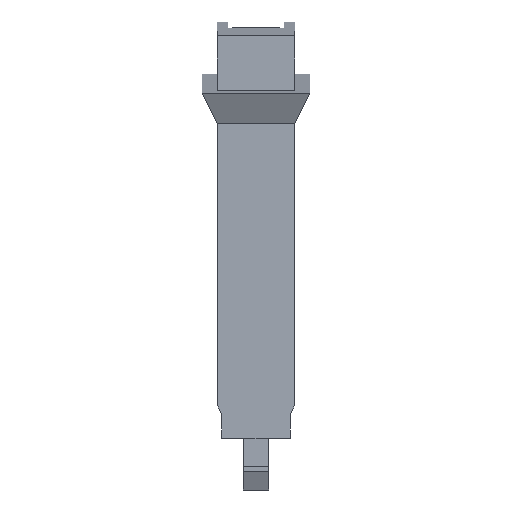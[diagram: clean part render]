
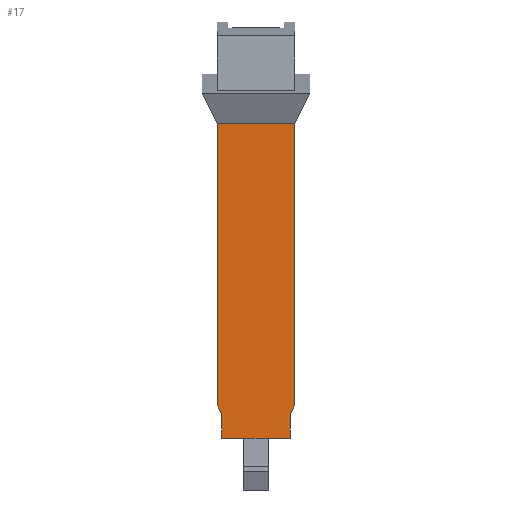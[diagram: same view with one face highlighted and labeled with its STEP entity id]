
A CAD part, left-side view. The second image highlights one B-rep face of the part: STEP entity #17.
In plain terms, the highlighted planar face has unit normal (-1, 0, 0).
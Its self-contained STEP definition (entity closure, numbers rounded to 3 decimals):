
#17 = ADVANCED_FACE('',(#18),#32,.F.);
#18 = FACE_BOUND('',#19,.F.);
#19 = EDGE_LOOP('',(#20,#55,#81,#107,#135,#161,#187,#215));
#20 = ORIENTED_EDGE('',*,*,#21,.F.);
#21 = EDGE_CURVE('',#22,#24,#26,.T.);
#22 = VERTEX_POINT('',#23);
#23 = CARTESIAN_POINT('',(-3.6,-3.6,-32.437));
#24 = VERTEX_POINT('',#25);
#25 = CARTESIAN_POINT('',(-3.6,-3.6,-6.321));
#26 = SURFACE_CURVE('',#27,(#31,#43),.PCURVE_S1.);
#27 = LINE('',#28,#29);
#28 = CARTESIAN_POINT('',(-3.6,-3.6,-35.537));
#29 = VECTOR('',#30,1.);
#30 = DIRECTION('',(0.,0.,1.));
#31 = PCURVE('',#32,#37);
#32 = PLANE('',#33);
#33 = AXIS2_PLACEMENT_3D('',#34,#35,#36);
#34 = CARTESIAN_POINT('',(-3.6,-3.6,-35.537));
#35 = DIRECTION('',(1.,0.,-0.));
#36 = DIRECTION('',(0.,0.,1.));
#37 = DEFINITIONAL_REPRESENTATION('',(#38),#42);
#38 = LINE('',#39,#40);
#39 = CARTESIAN_POINT('',(0.,0.));
#40 = VECTOR('',#41,1.);
#41 = DIRECTION('',(1.,0.));
#42 = ( GEOMETRIC_REPRESENTATION_CONTEXT(2) 
PARAMETRIC_REPRESENTATION_CONTEXT() REPRESENTATION_CONTEXT('2D SPACE',''
  ) );
#43 = PCURVE('',#44,#49);
#44 = PLANE('',#45);
#45 = AXIS2_PLACEMENT_3D('',#46,#47,#48);
#46 = CARTESIAN_POINT('',(-3.6,-3.6,-35.537));
#47 = DIRECTION('',(-0.,1.,0.));
#48 = DIRECTION('',(0.,0.,1.));
#49 = DEFINITIONAL_REPRESENTATION('',(#50),#54);
#50 = LINE('',#51,#52);
#51 = CARTESIAN_POINT('',(0.,0.));
#52 = VECTOR('',#53,1.);
#53 = DIRECTION('',(1.,0.));
#54 = ( GEOMETRIC_REPRESENTATION_CONTEXT(2) 
PARAMETRIC_REPRESENTATION_CONTEXT() REPRESENTATION_CONTEXT('2D SPACE',''
  ) );
#55 = ORIENTED_EDGE('',*,*,#56,.F.);
#56 = EDGE_CURVE('',#57,#22,#59,.T.);
#57 = VERTEX_POINT('',#58);
#58 = CARTESIAN_POINT('',(-3.6,-3.2,-33.337));
#59 = SURFACE_CURVE('',#60,(#64,#70),.PCURVE_S1.);
#60 = LINE('',#61,#62);
#61 = CARTESIAN_POINT('',(-3.6,-3.025,-33.732));
#62 = VECTOR('',#63,1.);
#63 = DIRECTION('',(0.,-0.406,0.914));
#64 = PCURVE('',#32,#65);
#65 = DEFINITIONAL_REPRESENTATION('',(#66),#69);
#66 = B_SPLINE_CURVE_WITH_KNOTS('',1,(#67,#68),.UNSPECIFIED.,.F.,.F.,(2,
    2),(0.432,1.416),.PIECEWISE_BEZIER_KNOTS.);
#67 = CARTESIAN_POINT('',(2.2,-0.4));
#68 = CARTESIAN_POINT('',(3.1,0.));
#69 = ( GEOMETRIC_REPRESENTATION_CONTEXT(2) 
PARAMETRIC_REPRESENTATION_CONTEXT() REPRESENTATION_CONTEXT('2D SPACE',''
  ) );
#70 = PCURVE('',#71,#76);
#71 = PLANE('',#72);
#72 = AXIS2_PLACEMENT_3D('',#73,#74,#75);
#73 = CARTESIAN_POINT('',(-4.,-3.6,-32.437));
#74 = DIRECTION('',(-0.,0.914,0.406));
#75 = DIRECTION('',(0.,0.406,-0.914));
#76 = DEFINITIONAL_REPRESENTATION('',(#77),#80);
#77 = B_SPLINE_CURVE_WITH_KNOTS('',1,(#78,#79),.UNSPECIFIED.,.F.,.F.,(2,
    2),(0.432,1.416),.PIECEWISE_BEZIER_KNOTS.);
#78 = CARTESIAN_POINT('',(0.985,-0.4));
#79 = CARTESIAN_POINT('',(0.,-0.4));
#80 = ( GEOMETRIC_REPRESENTATION_CONTEXT(2) 
PARAMETRIC_REPRESENTATION_CONTEXT() REPRESENTATION_CONTEXT('2D SPACE',''
  ) );
#81 = ORIENTED_EDGE('',*,*,#82,.F.);
#82 = EDGE_CURVE('',#83,#57,#85,.T.);
#83 = VERTEX_POINT('',#84);
#84 = CARTESIAN_POINT('',(-3.6,-3.2,-35.537));
#85 = SURFACE_CURVE('',#86,(#90,#96),.PCURVE_S1.);
#86 = LINE('',#87,#88);
#87 = CARTESIAN_POINT('',(-3.6,-3.2,-34.437));
#88 = VECTOR('',#89,1.);
#89 = DIRECTION('',(0.,0.,1.));
#90 = PCURVE('',#32,#91);
#91 = DEFINITIONAL_REPRESENTATION('',(#92),#95);
#92 = B_SPLINE_CURVE_WITH_KNOTS('',1,(#93,#94),.UNSPECIFIED.,.F.,.F.,(2,
    2),(-1.1,1.1),.PIECEWISE_BEZIER_KNOTS.);
#93 = CARTESIAN_POINT('',(0.,-0.4));
#94 = CARTESIAN_POINT('',(2.2,-0.4));
#95 = ( GEOMETRIC_REPRESENTATION_CONTEXT(2) 
PARAMETRIC_REPRESENTATION_CONTEXT() REPRESENTATION_CONTEXT('2D SPACE',''
  ) );
#96 = PCURVE('',#97,#102);
#97 = PLANE('',#98);
#98 = AXIS2_PLACEMENT_3D('',#99,#100,#101);
#99 = CARTESIAN_POINT('',(-4.,-3.2,-33.337));
#100 = DIRECTION('',(-0.,1.,0.));
#101 = DIRECTION('',(0.,0.,-1.));
#102 = DEFINITIONAL_REPRESENTATION('',(#103),#106);
#103 = B_SPLINE_CURVE_WITH_KNOTS('',1,(#104,#105),.UNSPECIFIED.,.F.,.F.,
  (2,2),(-1.1,1.1),.PIECEWISE_BEZIER_KNOTS.);
#104 = CARTESIAN_POINT('',(2.2,-0.4));
#105 = CARTESIAN_POINT('',(0.,-0.4));
#106 = ( GEOMETRIC_REPRESENTATION_CONTEXT(2) 
PARAMETRIC_REPRESENTATION_CONTEXT() REPRESENTATION_CONTEXT('2D SPACE',''
  ) );
#107 = ORIENTED_EDGE('',*,*,#108,.T.);
#108 = EDGE_CURVE('',#83,#109,#111,.T.);
#109 = VERTEX_POINT('',#110);
#110 = CARTESIAN_POINT('',(-3.6,3.2,-35.537));
#111 = SURFACE_CURVE('',#112,(#116,#123),.PCURVE_S1.);
#112 = LINE('',#113,#114);
#113 = CARTESIAN_POINT('',(-3.6,-3.6,-35.537));
#114 = VECTOR('',#115,1.);
#115 = DIRECTION('',(-0.,1.,0.));
#116 = PCURVE('',#32,#117);
#117 = DEFINITIONAL_REPRESENTATION('',(#118),#122);
#118 = LINE('',#119,#120);
#119 = CARTESIAN_POINT('',(0.,0.));
#120 = VECTOR('',#121,1.);
#121 = DIRECTION('',(0.,-1.));
#122 = ( GEOMETRIC_REPRESENTATION_CONTEXT(2) 
PARAMETRIC_REPRESENTATION_CONTEXT() REPRESENTATION_CONTEXT('2D SPACE',''
  ) );
#123 = PCURVE('',#124,#129);
#124 = PLANE('',#125);
#125 = AXIS2_PLACEMENT_3D('',#126,#127,#128);
#126 = CARTESIAN_POINT('',(-3.6,-3.6,-35.537));
#127 = DIRECTION('',(0.,0.,1.));
#128 = DIRECTION('',(1.,0.,-0.));
#129 = DEFINITIONAL_REPRESENTATION('',(#130),#134);
#130 = LINE('',#131,#132);
#131 = CARTESIAN_POINT('',(0.,0.));
#132 = VECTOR('',#133,1.);
#133 = DIRECTION('',(0.,1.));
#134 = ( GEOMETRIC_REPRESENTATION_CONTEXT(2) 
PARAMETRIC_REPRESENTATION_CONTEXT() REPRESENTATION_CONTEXT('2D SPACE',''
  ) );
#135 = ORIENTED_EDGE('',*,*,#136,.T.);
#136 = EDGE_CURVE('',#109,#137,#139,.T.);
#137 = VERTEX_POINT('',#138);
#138 = CARTESIAN_POINT('',(-3.6,3.2,-33.337));
#139 = SURFACE_CURVE('',#140,(#144,#150),.PCURVE_S1.);
#140 = LINE('',#141,#142);
#141 = CARTESIAN_POINT('',(-3.6,3.2,-34.437));
#142 = VECTOR('',#143,1.);
#143 = DIRECTION('',(0.,0.,1.));
#144 = PCURVE('',#32,#145);
#145 = DEFINITIONAL_REPRESENTATION('',(#146),#149);
#146 = B_SPLINE_CURVE_WITH_KNOTS('',1,(#147,#148),.UNSPECIFIED.,.F.,.F.,
  (2,2),(-1.1,1.1),.PIECEWISE_BEZIER_KNOTS.);
#147 = CARTESIAN_POINT('',(0.,-6.8));
#148 = CARTESIAN_POINT('',(2.2,-6.8));
#149 = ( GEOMETRIC_REPRESENTATION_CONTEXT(2) 
PARAMETRIC_REPRESENTATION_CONTEXT() REPRESENTATION_CONTEXT('2D SPACE',''
  ) );
#150 = PCURVE('',#151,#156);
#151 = PLANE('',#152);
#152 = AXIS2_PLACEMENT_3D('',#153,#154,#155);
#153 = CARTESIAN_POINT('',(-4.,3.2,-33.337));
#154 = DIRECTION('',(-0.,1.,0.));
#155 = DIRECTION('',(0.,0.,-1.));
#156 = DEFINITIONAL_REPRESENTATION('',(#157),#160);
#157 = B_SPLINE_CURVE_WITH_KNOTS('',1,(#158,#159),.UNSPECIFIED.,.F.,.F.,
  (2,2),(-1.1,1.1),.PIECEWISE_BEZIER_KNOTS.);
#158 = CARTESIAN_POINT('',(2.2,-0.4));
#159 = CARTESIAN_POINT('',(0.,-0.4));
#160 = ( GEOMETRIC_REPRESENTATION_CONTEXT(2) 
PARAMETRIC_REPRESENTATION_CONTEXT() REPRESENTATION_CONTEXT('2D SPACE',''
  ) );
#161 = ORIENTED_EDGE('',*,*,#162,.T.);
#162 = EDGE_CURVE('',#137,#163,#165,.T.);
#163 = VERTEX_POINT('',#164);
#164 = CARTESIAN_POINT('',(-3.6,3.6,-32.437));
#165 = SURFACE_CURVE('',#166,(#170,#176),.PCURVE_S1.);
#166 = LINE('',#167,#168);
#167 = CARTESIAN_POINT('',(-3.6,2.431,-35.068));
#168 = VECTOR('',#169,1.);
#169 = DIRECTION('',(0.,0.406,0.914));
#170 = PCURVE('',#32,#171);
#171 = DEFINITIONAL_REPRESENTATION('',(#172),#175);
#172 = B_SPLINE_CURVE_WITH_KNOTS('',1,(#173,#174),.UNSPECIFIED.,.F.,.F.,
  (2,2),(1.894,2.879),.PIECEWISE_BEZIER_KNOTS.);
#173 = CARTESIAN_POINT('',(2.2,-6.8));
#174 = CARTESIAN_POINT('',(3.1,-7.2));
#175 = ( GEOMETRIC_REPRESENTATION_CONTEXT(2) 
PARAMETRIC_REPRESENTATION_CONTEXT() REPRESENTATION_CONTEXT('2D SPACE',''
  ) );
#176 = PCURVE('',#177,#182);
#177 = PLANE('',#178);
#178 = AXIS2_PLACEMENT_3D('',#179,#180,#181);
#179 = CARTESIAN_POINT('',(-4.,3.6,-32.437));
#180 = DIRECTION('',(0.,0.914,-0.406));
#181 = DIRECTION('',(0.,-0.406,-0.914));
#182 = DEFINITIONAL_REPRESENTATION('',(#183),#186);
#183 = B_SPLINE_CURVE_WITH_KNOTS('',1,(#184,#185),.UNSPECIFIED.,.F.,.F.,
  (2,2),(1.894,2.879),.PIECEWISE_BEZIER_KNOTS.);
#184 = CARTESIAN_POINT('',(0.985,-0.4));
#185 = CARTESIAN_POINT('',(0.,-0.4));
#186 = ( GEOMETRIC_REPRESENTATION_CONTEXT(2) 
PARAMETRIC_REPRESENTATION_CONTEXT() REPRESENTATION_CONTEXT('2D SPACE',''
  ) );
#187 = ORIENTED_EDGE('',*,*,#188,.T.);
#188 = EDGE_CURVE('',#163,#189,#191,.T.);
#189 = VERTEX_POINT('',#190);
#190 = CARTESIAN_POINT('',(-3.6,3.6,-6.321));
#191 = SURFACE_CURVE('',#192,(#196,#203),.PCURVE_S1.);
#192 = LINE('',#193,#194);
#193 = CARTESIAN_POINT('',(-3.6,3.6,-35.537));
#194 = VECTOR('',#195,1.);
#195 = DIRECTION('',(0.,0.,1.));
#196 = PCURVE('',#32,#197);
#197 = DEFINITIONAL_REPRESENTATION('',(#198),#202);
#198 = LINE('',#199,#200);
#199 = CARTESIAN_POINT('',(0.,-7.2));
#200 = VECTOR('',#201,1.);
#201 = DIRECTION('',(1.,0.));
#202 = ( GEOMETRIC_REPRESENTATION_CONTEXT(2) 
PARAMETRIC_REPRESENTATION_CONTEXT() REPRESENTATION_CONTEXT('2D SPACE',''
  ) );
#203 = PCURVE('',#204,#209);
#204 = PLANE('',#205);
#205 = AXIS2_PLACEMENT_3D('',#206,#207,#208);
#206 = CARTESIAN_POINT('',(-3.6,3.6,-35.537));
#207 = DIRECTION('',(-0.,1.,0.));
#208 = DIRECTION('',(0.,0.,1.));
#209 = DEFINITIONAL_REPRESENTATION('',(#210),#214);
#210 = LINE('',#211,#212);
#211 = CARTESIAN_POINT('',(0.,0.));
#212 = VECTOR('',#213,1.);
#213 = DIRECTION('',(1.,0.));
#214 = ( GEOMETRIC_REPRESENTATION_CONTEXT(2) 
PARAMETRIC_REPRESENTATION_CONTEXT() REPRESENTATION_CONTEXT('2D SPACE',''
  ) );
#215 = ORIENTED_EDGE('',*,*,#216,.T.);
#216 = EDGE_CURVE('',#189,#24,#217,.T.);
#217 = SURFACE_CURVE('',#218,(#222,#229),.PCURVE_S1.);
#218 = LINE('',#219,#220);
#219 = CARTESIAN_POINT('',(-3.6,3.6,-6.321));
#220 = VECTOR('',#221,1.);
#221 = DIRECTION('',(0.,-1.,0.));
#222 = PCURVE('',#32,#223);
#223 = DEFINITIONAL_REPRESENTATION('',(#224),#228);
#224 = LINE('',#225,#226);
#225 = CARTESIAN_POINT('',(29.216,-7.2));
#226 = VECTOR('',#227,1.);
#227 = DIRECTION('',(0.,1.));
#228 = ( GEOMETRIC_REPRESENTATION_CONTEXT(2) 
PARAMETRIC_REPRESENTATION_CONTEXT() REPRESENTATION_CONTEXT('2D SPACE',''
  ) );
#229 = PCURVE('',#230,#235);
#230 = B_SPLINE_SURFACE_WITH_KNOTS('',1,1,(
    (#231,#232)
    ,(#233,#234
  )),.UNSPECIFIED.,.F.,.F.,.F.,(2,2),(2,2),(0.,10.),(0.,1.),
  .PIECEWISE_BEZIER_KNOTS.);
#231 = CARTESIAN_POINT('',(-3.6,3.6,-6.321));
#232 = CARTESIAN_POINT('',(-5.,5.,-3.522));
#233 = CARTESIAN_POINT('',(-3.6,-3.6,-6.321));
#234 = CARTESIAN_POINT('',(-5.,-5.,-3.522));
#235 = DEFINITIONAL_REPRESENTATION('',(#236),#239);
#236 = B_SPLINE_CURVE_WITH_KNOTS('',1,(#237,#238),.UNSPECIFIED.,.F.,.F.,
  (2,2),(0.,7.2),.PIECEWISE_BEZIER_KNOTS.);
#237 = CARTESIAN_POINT('',(0.,0.));
#238 = CARTESIAN_POINT('',(10.,0.));
#239 = ( GEOMETRIC_REPRESENTATION_CONTEXT(2) 
PARAMETRIC_REPRESENTATION_CONTEXT() REPRESENTATION_CONTEXT('2D SPACE',''
  ) );
